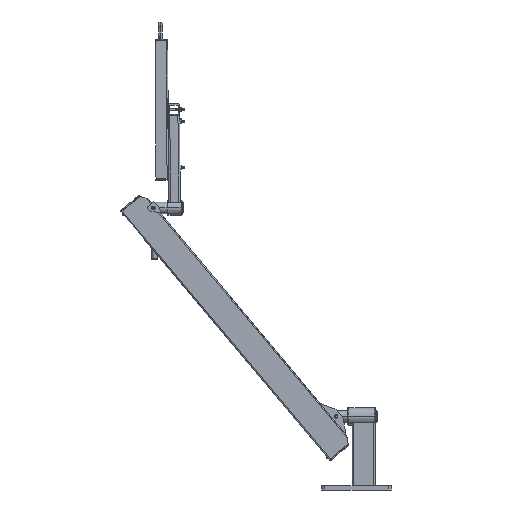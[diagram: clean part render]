
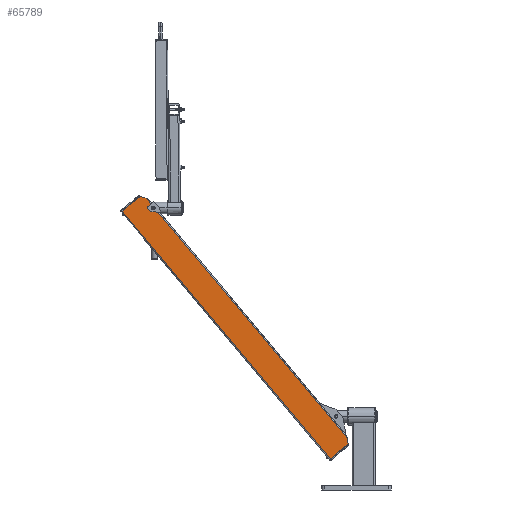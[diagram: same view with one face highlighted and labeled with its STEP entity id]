
A CAD part, left-side view. The second image highlights one B-rep face of the part: STEP entity #65789.
In plain terms, the highlighted planar face has unit normal (-1, 0, 0).
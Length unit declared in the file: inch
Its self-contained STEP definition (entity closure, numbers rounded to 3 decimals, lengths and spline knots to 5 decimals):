
#1245 = ORIENTED_EDGE ( 'NONE', *, *, #37379, .F. ) ;
#1673 = CARTESIAN_POINT ( 'NONE',  ( -1.5, -2.5, 27.35048 ) ) ;
#1852 = DIRECTION ( 'NONE',  ( 0., -0.5, 0.866 ) ) ;
#1891 = CARTESIAN_POINT ( 'NONE',  ( -1.5, -2.4, 0.47631 ) ) ;
#4296 = CARTESIAN_POINT ( 'NONE',  ( -1.5, -2.37942, 26.375 ) ) ;
#4637 = VERTEX_POINT ( 'NONE', #71157 ) ;
#6063 = CARTESIAN_POINT ( 'NONE',  ( -1.5, -2.4, 26.625 ) ) ;
#6372 = DIRECTION ( 'NONE',  ( 0., -1., 0. ) ) ;
#7819 = ORIENTED_EDGE ( 'NONE', *, *, #47647, .T. ) ;
#8426 = LINE ( 'NONE', #1673, #44688 ) ;
#8631 = VERTEX_POINT ( 'NONE', #1891 ) ;
#8969 = VERTEX_POINT ( 'NONE', #41352 ) ;
#9260 = VERTEX_POINT ( 'NONE', #76885 ) ;
#10333 = VECTOR ( 'NONE', #1852, 39.37008 ) ;
#10553 = ORIENTED_EDGE ( 'NONE', *, *, #71944, .T. ) ;
#11696 = CARTESIAN_POINT ( 'NONE',  ( -1.5, -2.315, 26.5 ) ) ;
#13056 = PLANE ( 'NONE',  #59417 ) ;
#13976 = LINE ( 'NONE', #47895, #71526 ) ;
#14057 = CARTESIAN_POINT ( 'NONE',  ( -1.5, -2.5, 0.64952 ) ) ;
#14415 = VECTOR ( 'NONE', #50415, 39.37008 ) ;
#14532 = CIRCLE ( 'NONE', #22548, 0.14062 ) ;
#14774 = ORIENTED_EDGE ( 'NONE', *, *, #74259, .T. ) ;
#15091 = LINE ( 'NONE', #59521, #23024 ) ;
#15377 = VECTOR ( 'NONE', #63672, 39.37008 ) ;
#16045 = CARTESIAN_POINT ( 'NONE',  ( -1.5, -0.1, 28. ) ) ;
#16441 = CARTESIAN_POINT ( 'NONE',  ( -1.5, -0.1, 28. ) ) ;
#17541 = DIRECTION ( 'NONE',  ( 0., 1., 0. ) ) ;
#18920 = CARTESIAN_POINT ( 'NONE',  ( -1.5, -0.1, 28. ) ) ;
#20203 = ORIENTED_EDGE ( 'NONE', *, *, #74870, .T. ) ;
#20496 = EDGE_CURVE ( 'NONE', #42469, #9260, #24030, .T. ) ;
#20941 = VERTEX_POINT ( 'NONE', #39892 ) ;
#21524 = LINE ( 'NONE', #16045, #82020 ) ;
#22158 = ORIENTED_EDGE ( 'NONE', *, *, #20496, .T. ) ;
#22548 = AXIS2_PLACEMENT_3D ( 'NONE', #64176, #70858, #52414 ) ;
#23024 = VECTOR ( 'NONE', #65782, 39.37008 ) ;
#24030 = LINE ( 'NONE', #38249, #14415 ) ;
#25308 = EDGE_CURVE ( 'NONE', #32872, #20941, #60315, .T. ) ;
#25597 = CARTESIAN_POINT ( 'NONE',  ( -1.5, -2.125, 0. ) ) ;
#25634 = EDGE_LOOP ( 'NONE', ( #20203, #81420, #22158, #49880, #10553, #32385, #14774, #81762, #65258, #7819, #1245 ) ) ;
#32385 = ORIENTED_EDGE ( 'NONE', *, *, #73592, .F. ) ;
#32872 = VERTEX_POINT ( 'NONE', #4296 ) ;
#34890 = VERTEX_POINT ( 'NONE', #43687 ) ;
#37379 = EDGE_CURVE ( 'NONE', #34890, #39673, #75811, .T. ) ;
#38115 = CARTESIAN_POINT ( 'NONE',  ( -1.5, -2.4, 28. ) ) ;
#38199 = DIRECTION ( 'NONE',  ( -1., 0., 0. ) ) ;
#38249 = CARTESIAN_POINT ( 'NONE',  ( -1.5, -0.1, 28. ) ) ;
#38292 = CARTESIAN_POINT ( 'NONE',  ( -1.5, -2.5, 26.625 ) ) ;
#39673 = VERTEX_POINT ( 'NONE', #6063 ) ;
#39892 = CARTESIAN_POINT ( 'NONE',  ( -1.5, -2.17438, 26.5 ) ) ;
#41196 = EDGE_CURVE ( 'NONE', #65624, #9260, #15091, .T. ) ;
#41352 = CARTESIAN_POINT ( 'NONE',  ( -1.5, -2.37942, 26.625 ) ) ;
#41395 = LINE ( 'NONE', #74052, #59511 ) ;
#41930 = VECTOR ( 'NONE', #63848, 39.37008 ) ;
#42469 = VERTEX_POINT ( 'NONE', #16441 ) ;
#43687 = CARTESIAN_POINT ( 'NONE',  ( -1.5, -2.4, 27.52369 ) ) ;
#44116 = EDGE_CURVE ( 'NONE', #4637, #42469, #21524, .T. ) ;
#44688 = VECTOR ( 'NONE', #66229, 39.37008 ) ;
#45600 = AXIS2_PLACEMENT_3D ( 'NONE', #11696, #62372, #17541 ) ;
#46655 = DIRECTION ( 'NONE',  ( 0., 0., -1. ) ) ;
#47647 = EDGE_CURVE ( 'NONE', #8969, #39673, #63424, .T. ) ;
#47895 = CARTESIAN_POINT ( 'NONE',  ( -1.5, -2.4, 28. ) ) ;
#49880 = ORIENTED_EDGE ( 'NONE', *, *, #41196, .F. ) ;
#50415 = DIRECTION ( 'NONE',  ( 0., 0., -1. ) ) ;
#50777 = FACE_OUTER_BOUND ( 'NONE', #25634, .T. ) ;
#52414 = DIRECTION ( 'NONE',  ( 0., 1., 0. ) ) ;
#52932 = EDGE_CURVE ( 'NONE', #20941, #8969, #14532, .T. ) ;
#59417 = AXIS2_PLACEMENT_3D ( 'NONE', #18920, #38199, #6372 ) ;
#59511 = VECTOR ( 'NONE', #77938, 39.37008 ) ;
#59521 = CARTESIAN_POINT ( 'NONE',  ( -1.5, -0.1, 0. ) ) ;
#60315 = CIRCLE ( 'NONE', #45600, 0.14062 ) ;
#62372 = DIRECTION ( 'NONE',  ( 1., 0., 0. ) ) ;
#63424 = LINE ( 'NONE', #38292, #41930 ) ;
#63672 = DIRECTION ( 'NONE',  ( 0., 0., -1. ) ) ;
#63848 = DIRECTION ( 'NONE',  ( 0., -1., 0. ) ) ;
#63904 = VERTEX_POINT ( 'NONE', #79172 ) ;
#64176 = CARTESIAN_POINT ( 'NONE',  ( -1.5, -2.315, 26.5 ) ) ;
#65258 = ORIENTED_EDGE ( 'NONE', *, *, #52932, .T. ) ;
#65624 = VERTEX_POINT ( 'NONE', #25597 ) ;
#65782 = DIRECTION ( 'NONE',  ( 0., 1., 0. ) ) ;
#65789 = ADVANCED_FACE ( 'NONE', ( #50777 ), #13056, .T. ) ;
#66229 = DIRECTION ( 'NONE',  ( 0., 0.5, 0.866 ) ) ;
#70858 = DIRECTION ( 'NONE',  ( 1., 0., 0. ) ) ;
#71157 = CARTESIAN_POINT ( 'NONE',  ( -1.5, -2.125, 28. ) ) ;
#71526 = VECTOR ( 'NONE', #46655, 39.37008 ) ;
#71944 = EDGE_CURVE ( 'NONE', #65624, #8631, #78965, .T. ) ;
#73592 = EDGE_CURVE ( 'NONE', #63904, #8631, #13976, .T. ) ;
#74052 = CARTESIAN_POINT ( 'NONE',  ( -1.5, -2.5, 26.375 ) ) ;
#74259 = EDGE_CURVE ( 'NONE', #63904, #32872, #41395, .T. ) ;
#74870 = EDGE_CURVE ( 'NONE', #34890, #4637, #8426, .T. ) ;
#75811 = LINE ( 'NONE', #38115, #15377 ) ;
#76885 = CARTESIAN_POINT ( 'NONE',  ( -1.5, -0.1, 0. ) ) ;
#77938 = DIRECTION ( 'NONE',  ( 0., 1., 0. ) ) ;
#78488 = DIRECTION ( 'NONE',  ( 0., 1., 0. ) ) ;
#78965 = LINE ( 'NONE', #14057, #10333 ) ;
#79172 = CARTESIAN_POINT ( 'NONE',  ( -1.5, -2.4, 26.375 ) ) ;
#81420 = ORIENTED_EDGE ( 'NONE', *, *, #44116, .T. ) ;
#81762 = ORIENTED_EDGE ( 'NONE', *, *, #25308, .T. ) ;
#82020 = VECTOR ( 'NONE', #78488, 39.37008 ) ;
